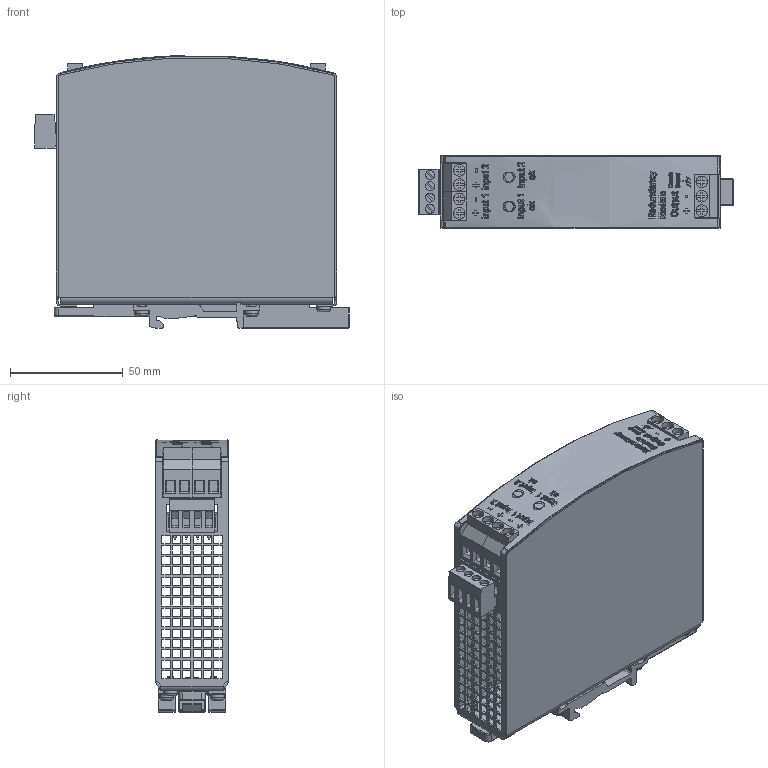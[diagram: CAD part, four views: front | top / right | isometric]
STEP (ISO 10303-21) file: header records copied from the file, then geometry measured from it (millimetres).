
FILE_DESCRIPTION((''),'2;1');
FILE_NAME('C:\Users\rahns\Desktop\md3_yrm2_diode.stp','2013-02-18T07:04:25',('rahns'),(''),'Autodesk Inventor 2009','Autodesk Inventor 2009','');
FILE_SCHEMA(('AUTOMOTIVE_DESIGN { 1 0 10303 214 1 1 1 1 }'));
Length unit declared in the file: millimetre
Products named in the file (11): 361; HOUSING BODY 361; HOUSING COVER 361; SLIDER; T HOLDER; SCREW 3x6; TERMINAL 3P R6,35 T; TERMINAL 2P R6,35 T; CONNECTOR 4P R5; TERMINAL PLUGABLE 4P R5,0 ; FRONTFOIL 361
Assembly tree (17 placements, depth 2):
  361
    HOUSING BODY 361
    HOUSING COVER 361
    SLIDER
    T HOLDER  x2
    SCREW 3x6  x6
    TERMINAL 3P R6,35 T
    TERMINAL 2P R6,35 T  x2
    CONNECTOR 4P R5
    TERMINAL PLUGABLE 4P R5,0 
    FRONTFOIL 361
Bounding box: 139.2 x 32 x 120.48 mm (x, y, z)
Volume: 78943.6 mm3; surface area: 102368.6 mm2
Topology: 17 solids, 17 shells, 2585 faces, 7111 edges, 4716 vertices
Faces by surface type: plane 1912, bspline 395, cylinder 250, torus 10, cone 10, sphere 8
Full cylindrical faces by diameter (mm): 0.05 x4, 1 x4, 3 x10, 3.1 x4, 4 x4, 4.5 x4, 5.15 x7, 6 x6
Entity records: 83925 total; most frequent: CARTESIAN_POINT 23828, ORIENTED_EDGE 13076, DIRECTION 10590, EDGE_CURVE 6538, VECTOR 4900, LINE 4900, VERTEX_POINT 4350, EDGE_LOOP 2940
